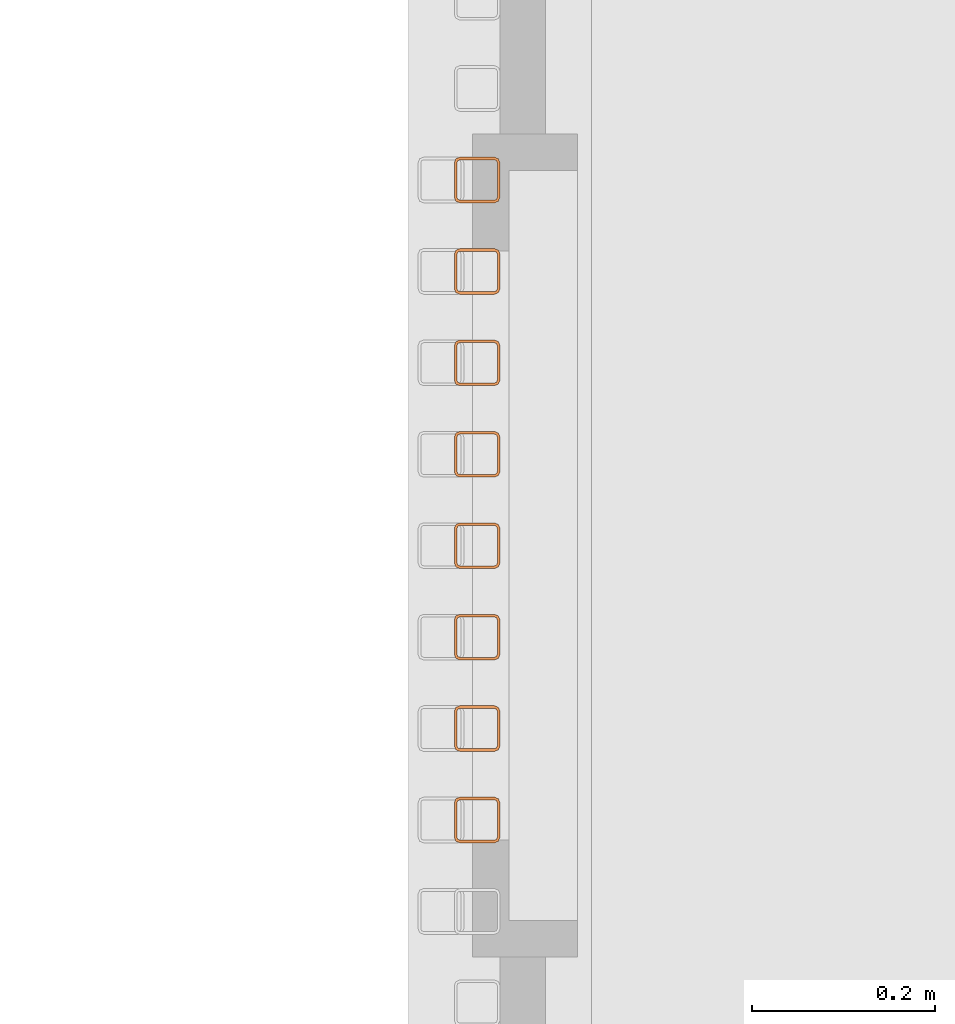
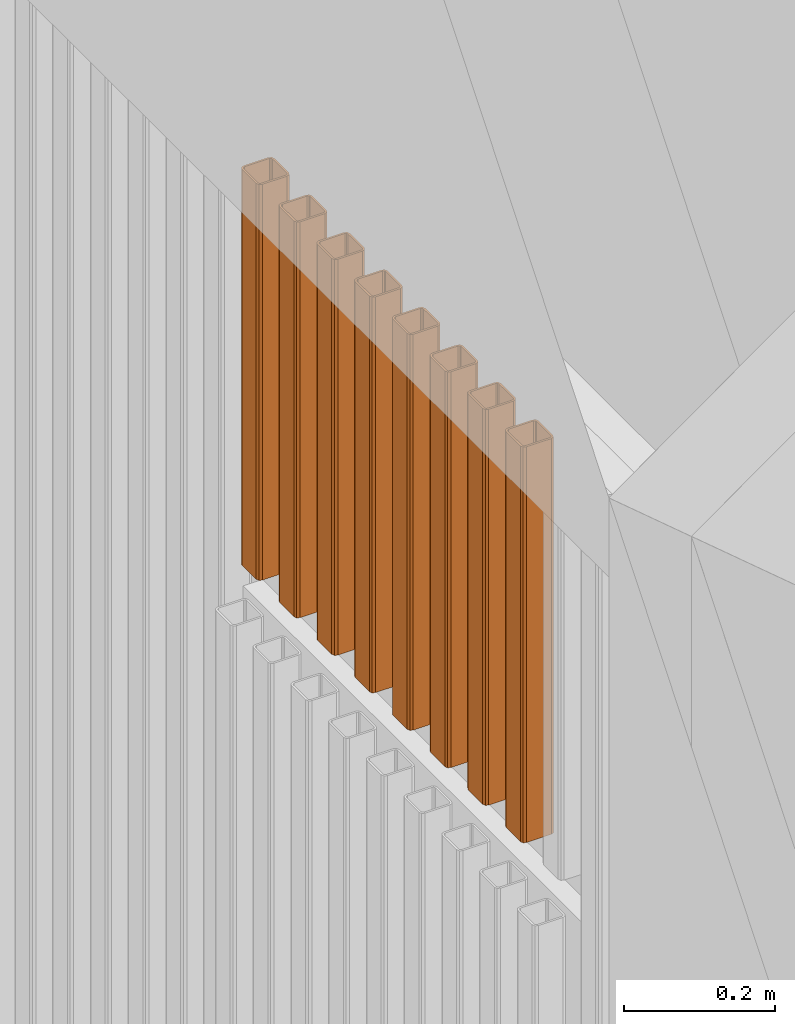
# One storey, part 94 of 112: 8 proxies.
"""IFC2X3 building model written with IfcOpenShell, lengths in millimetres."""

from ifc_helpers import new_model, entity, si_unit, converted_unit, derived_unit, money_unit, direction, frame, origin_with_axes, place, context, subcontext, project, spatial, faceted_brep, source, transform, mapped, material, type_object, element, save


model = new_model("IFC2X3")

# Units and contexts
model_context = context("Model", 3, precision=0.01, world=origin_with_axes(), true_north=direction((0.0, 1.0)))
body_context = subcontext(model_context, "Body", "Model", "MODEL_VIEW")
ifc_project = project(units=[si_unit("LENGTHUNIT", "METRE", prefix="MILLI"), si_unit("AREAUNIT", "SQUARE_METRE"), si_unit("VOLUMEUNIT", "CUBIC_METRE"), converted_unit("PLANEANGLEUNIT", "DEGREE", entity("IfcPlaneAngleMeasure", 0.0174532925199), si_unit("PLANEANGLEUNIT", "RADIAN"), dimensions=[0, 0, 0, 0, 0, 0, 0]), si_unit("SOLIDANGLEUNIT", "STERADIAN"), money_unit("EUR"), converted_unit("TIMEUNIT", "Year", entity("IfcTimeMeasure", 31556926.0), si_unit("TIMEUNIT", "SECOND"), dimensions=[0, 0, 1, 0, 0, 0, 0]), si_unit("MASSUNIT", "GRAM", prefix="KILO"), si_unit("THERMODYNAMICTEMPERATUREUNIT", "DEGREE_CELSIUS"), si_unit("LUMINOUSINTENSITYUNIT", "LUMEN"), si_unit("ENERGYUNIT", "JOULE", prefix="MEGA"), derived_unit("THERMALCONDUCTANCEUNIT", [(si_unit("POWERUNIT", "WATT"), 1), (si_unit("LENGTHUNIT", "METRE"), -1), (si_unit("THERMODYNAMICTEMPERATUREUNIT", "KELVIN"), -1)]), derived_unit("SPECIFICHEATCAPACITYUNIT", [(si_unit("ENERGYUNIT", "JOULE"), 1), (si_unit("MASSUNIT", "GRAM", prefix="KILO"), -1), (si_unit("THERMODYNAMICTEMPERATUREUNIT", "KELVIN"), -1)]), derived_unit("MASSDENSITYUNIT", [(si_unit("MASSUNIT", "GRAM", prefix="KILO"), 1), (si_unit("VOLUMEUNIT", "CUBIC_METRE"), -1)])], contexts=[model_context])

# Site, building, storey
site_placement = place(None, origin_with_axes())
site = spatial("IfcSite", under=ifc_project, at=site_placement, Name="Politse- ja Piirivalveameti ning Päästeameti ühishoone", CompositionType="ELEMENT")
building_placement = place(site_placement, origin_with_axes())
building = spatial("IfcBuilding", under=site, at=building_placement, Name="Politse- ja Piirivalveameti ning Päästeameti ühishoone", CompositionType="ELEMENT")
storey_placement = place(building_placement, origin_with_axes())
storey = spatial("IfcBuildingStorey", under=building, at=storey_placement, Name="Esimene korrus", CompositionType="ELEMENT", Elevation=0.0)

# Proxies
ifc_material = material(Name="ET-05_Teras")
building_element_proxy_type = type_object("IfcBuildingElementProxyType", Name="SHS Cold-Formed Column 23", PredefinedType="NOTDEFINED")
shared_shape = source(origin_with_axes(), body_context, "Body", "Brep", [
    faceted_brep([(19.0, -25.0, 0.0), (19.0, -25.0, 640.197821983), (-19.0, -25.0, 640.197821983), (-19.0, -25.0, 0.0), (23.2426406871, -23.2426406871, 0.0), (23.2426406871, -23.2426406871, 640.197821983), (25.0, -19.0, 640.197821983), (25.0, 19.0, 640.197821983), (23.2426406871, 23.2426406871, 640.197821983), (19.0, 25.0, 640.197821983), (-19.0, 25.0, 640.197821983), (-23.2426406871, 23.2426406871, 640.197821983), (-25.0, 19.0, 640.197821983), (-25.0, -19.0, 640.197821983), (-23.2426406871, -23.2426406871, 640.197821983), (19.0, -22.0, 640.197821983), (-19.0, -22.0, 640.197821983), (-21.1213203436, -21.1213203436, 640.197821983), (-22.0, -19.0, 640.197821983), (-22.0, 19.0, 640.197821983), (-21.1213203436, 21.1213203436, 640.197821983), (-19.0, 22.0, 640.197821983), (19.0, 22.0, 640.197821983), (21.1213203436, 21.1213203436, 640.197821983), (22.0, 19.0, 640.197821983), (22.0, -19.0, 640.197821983), (21.1213203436, -21.1213203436, 640.197821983), (-23.2426406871, -23.2426406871, 0.0), (-25.0, -19.0, 0.0), (-25.0, 19.0, 0.0), (-23.2426406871, 23.2426406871, 0.0), (-19.0, 25.0, 0.0), (19.0, 25.0, 0.0), (23.2426406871, 23.2426406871, 0.0), (25.0, 19.0, 0.0), (25.0, -19.0, 0.0), (19.0, -22.0, 0.0), (21.1213203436, -21.1213203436, 0.0), (22.0, -19.0, 0.0), (22.0, 19.0, 0.0), (21.1213203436, 21.1213203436, 0.0), (19.0, 22.0, 0.0), (-19.0, 22.0, 0.0), (-21.1213203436, 21.1213203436, 0.0), (-22.0, 19.0, 0.0), (-22.0, -19.0, 0.0), (-21.1213203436, -21.1213203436, 0.0), (-19.0, -22.0, 0.0)], [[[0, 1, 2, 3]], [[4, 5, 1, 0]], [[1, 5, 6, 7, 8, 9, 10, 11, 12, 13, 14, 2], [15, 16, 17, 18, 19, 20, 21, 22, 23, 24, 25, 26]], [[3, 2, 14, 27]], [[0, 3, 27, 28, 29, 30, 31, 32, 33, 34, 35, 4], [36, 37, 38, 39, 40, 41, 42, 43, 44, 45, 46, 47]], [[35, 6, 5, 4]], [[34, 7, 6, 35]], [[33, 8, 7, 34]], [[32, 9, 8, 33]], [[31, 10, 9, 32]], [[30, 11, 10, 31]], [[29, 12, 11, 30]], [[28, 13, 12, 29]], [[27, 14, 13, 28]], [[47, 16, 15, 36]], [[46, 17, 16, 47]], [[45, 18, 17, 46]], [[44, 19, 18, 45]], [[43, 20, 19, 44]], [[42, 21, 20, 43]], [[41, 22, 21, 42]], [[40, 23, 22, 41]], [[39, 24, 23, 40]], [[38, 25, 24, 39]], [[37, 26, 25, 38]], [[36, 15, 26, 37]]]),
])
for number, where, z_axis, x_axis in (
    (1, (-434.91706967, 16850.499859, 2159.80217802), (0.0, 0.0, 1.0), (-1.0, -1.30049817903e-07, 0.0)),
    (2, (-434.917082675, 16950.499859, 2159.80217802), (0.0, 0.0, 1.0), (-1.0, -1.30049817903e-07, 0.0)),
    (3, (-434.91709568, 17050.499859, 2159.80217802), (0.0, 0.0, 1.0), (-1.0, -1.30049817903e-07, 0.0)),
    (4, (-434.917108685, 17150.499859, 2159.80217802), (0.0, 0.0, 1.0), (-1.0, -1.30049817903e-07, 0.0)),
    (5, (-434.91712169, 17250.499859, 2159.80217802), (0.0, 0.0, 1.0), (-1.0, -1.30049817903e-07, 0.0)),
    (6, (-434.917134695, 17350.499859, 2159.80217802), (0.0, 0.0, 1.0), (-1.0, -1.30049817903e-07, 0.0)),
    (7, (-434.9171477, 17450.499859, 2159.80217802), (0.0, 0.0, 1.0), (-1.0, -1.30049817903e-07, 0.0)),
    (8, (-434.917160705, 17550.499859, 2159.80217802), (0.0, 0.0, 1.0), (-1.0, -1.30049817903e-07, 0.0)),
):
    element("IfcBuildingElementProxy", number, at=place(storey_placement, frame(where, z_axis=z_axis, x_axis=x_axis)), inside=storey, type_object=building_element_proxy_type, material=ifc_material, Name="Fassaadiribid", context=body_context, shape_type="MappedRepresentation", body=[
        mapped(shared_shape, transform((0.0, 0.0, 0.0))),
    ])

save(model, "model.ifc")
